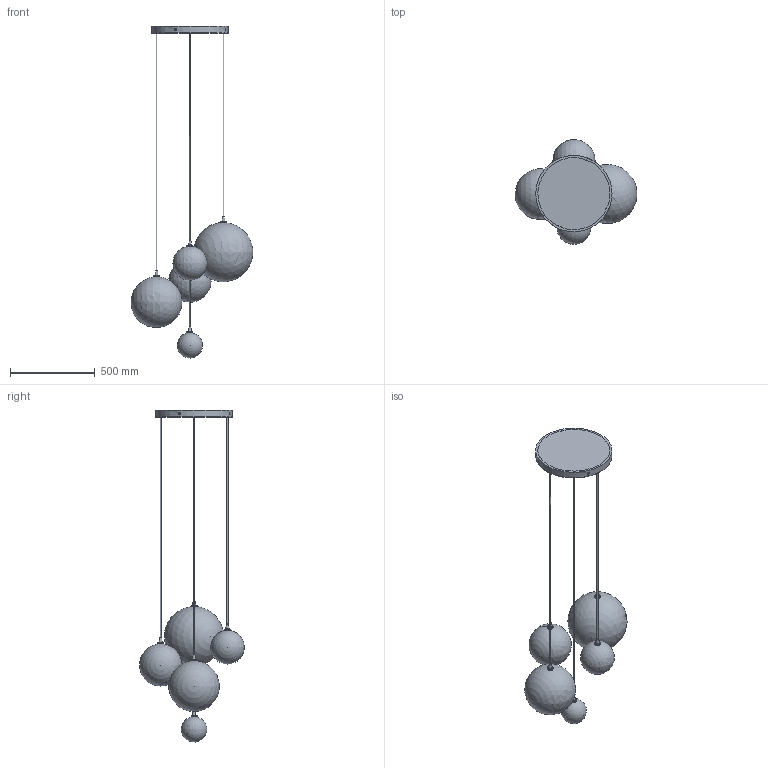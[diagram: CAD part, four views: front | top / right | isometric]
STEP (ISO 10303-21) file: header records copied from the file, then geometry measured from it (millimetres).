
FILE_DESCRIPTION(/* description */ (''),/* implementation_level */ '2;1');
FILE_NAME(/* name */ 'T:\B084 Glass Globe Cluster Chandelier\Pliki bryłowe handlowe\B084 Cluster 5 Mix 3D files\B084 Cluster 5 Mix.stp',/* time_stamp */ '2022-01-20T09:39:48+01:00',/* author */ ('Mariusz Awariusz'),/* organization */ (''),/* preprocessor_version */ 'ST-DEVELOPER v18.1',/* originating_system */ 'Autodesk Inventor 2022',/* authorisation */ '');
FILE_SCHEMA (('AUTOMOTIVE_DESIGN { 1 0 10303 214 3 1 1 }'));
Length unit declared in the file: millimetre
Products named in the file (1): B084 Glass Globe Cluster Chandelier CE_v4_na potrzeby plików 3D_2
_jako część
Bounding box: 718.58 x 618.09 x 1957.54 mm (x, y, z)
Volume: 9007233.3 mm3; surface area: 2636604.4 mm2
Topology: 1 solids, 11 shells, 237 faces, 507 edges, 340 vertices
Faces by surface type: plane 103, cylinder 56, cone 48, torus 15, sphere 11, bspline 4
Full cylindrical faces by diameter (mm): 2.693 x1, 3 x4, 4 x3, 5.5 x1, 7 x5, 11 x5, 11.917 x1, 13 x14, 14 x5, 19.8 x5, 33 x5, 35 x5, 450 x2
Entity records: 6849 total; most frequent: CARTESIAN_POINT 1497, DIRECTION 1214, ORIENTED_EDGE 974, AXIS2_PLACEMENT_3D 533, EDGE_CURVE 487, VERTEX_POINT 340, EDGE_LOOP 325, CIRCLE 283
